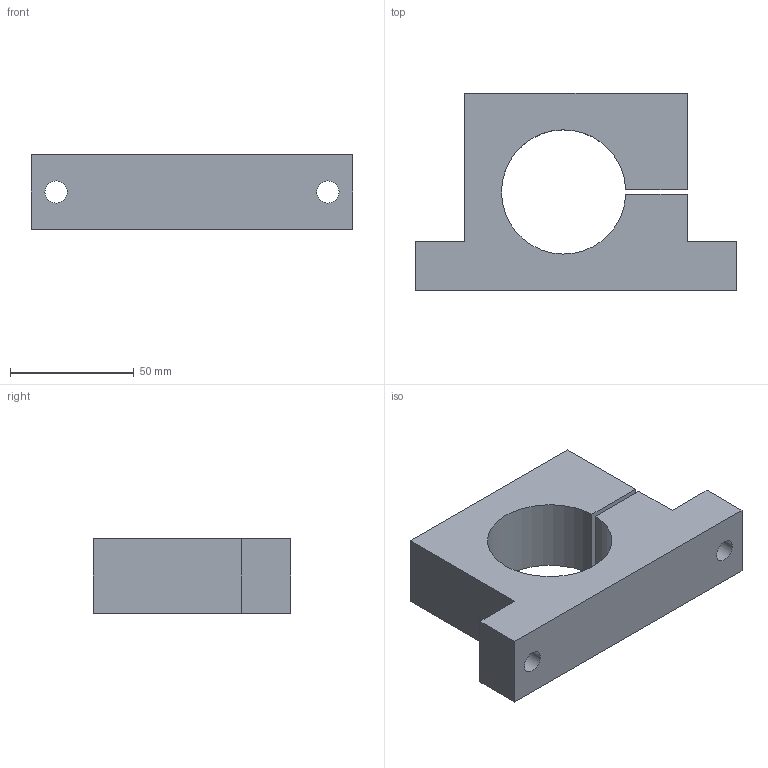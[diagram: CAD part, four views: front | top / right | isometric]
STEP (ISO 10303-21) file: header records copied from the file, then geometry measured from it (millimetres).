
FILE_DESCRIPTION(/* description */ (''),/* implementation_level */ '2;1');
FILE_NAME(/* name */ 'C:\Users\Jefferson\Desktop\Biblioteca Pro Nitro 2024\Flanges\PNB-57-XXX\PNB-57-050.stp',/* time_stamp */ '2024-01-29T10:08:41-03:00',/* author */ ('Jefferson'),/* organization */ (''),/* preprocessor_version */ 'ST-DEVELOPER v18.1',/* originating_system */ 'Autodesk Inventor 2021',/* authorisation */ '');
FILE_SCHEMA (('AUTOMOTIVE_DESIGN { 1 0 10303 214 3 1 1 }'));
Length unit declared in the file: millimetre
Products named in the file (1): PNB-57-050
Bounding box: 130 x 80 x 30 mm (x, y, z)
Volume: 172090.4 mm3; surface area: 33129.3 mm2
Topology: 1 solids, 1 shells, 165 faces, 447 edges, 300 vertices
Faces by surface type: plane 86, bspline 72, cylinder 6, cone 1
Full cylindrical faces by diameter (mm): 6.647 x1, 9 x3, 15 x1
Entity records: 5588 total; most frequent: CARTESIAN_POINT 1848, ORIENTED_EDGE 892, DIRECTION 509, EDGE_CURVE 446, VERTEX_POINT 300, LINE 283, VECTOR 283, EDGE_LOOP 188
